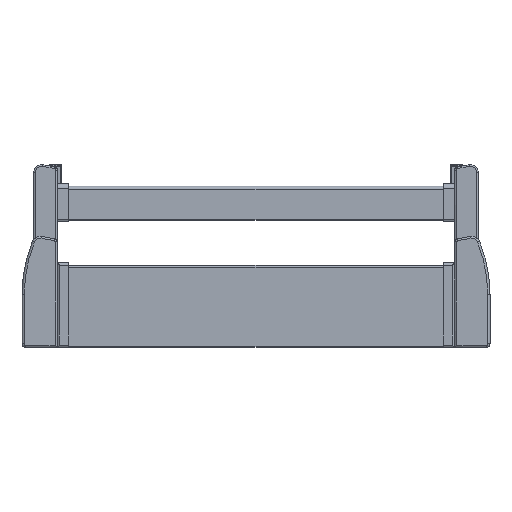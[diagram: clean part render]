
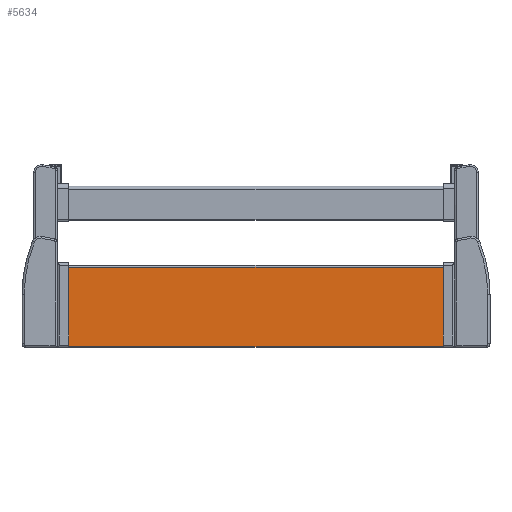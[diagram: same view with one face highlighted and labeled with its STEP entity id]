
A CAD part, top view. The second image highlights one B-rep face of the part: STEP entity #5634.
In plain terms, the highlighted planar face has unit normal (0, 0, 1).
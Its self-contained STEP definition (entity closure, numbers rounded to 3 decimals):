
#597 = VERTEX_POINT ( 'NONE', #2080 ) ;
#600 = EDGE_CURVE ( 'NONE', #602, #597, #2079, .T. ) ;
#602 = VERTEX_POINT ( 'NONE', #2075 ) ;
#2075 = CARTESIAN_POINT ( 'NONE',  ( 163.8, -92.5, 1.4 ) ) ;
#2076 = DIRECTION ( 'NONE',  ( 0., 1., 0. ) ) ;
#2077 = VECTOR ( 'NONE', #2076, 1000. ) ;
#2078 = CARTESIAN_POINT ( 'NONE',  ( 163.8, -92.5, 1.4 ) ) ;
#2079 = LINE ( 'NONE', #2078, #2077 ) ;
#2080 = CARTESIAN_POINT ( 'NONE',  ( 163.8, -23., 1.4 ) ) ;
#4265 = VECTOR ( 'NONE', #4324, 1000. ) ;
#4266 = CARTESIAN_POINT ( 'NONE',  ( -163.8, -92.5, 1.4 ) ) ;
#4267 = LINE ( 'NONE', #4266, #4265 ) ;
#4314 = DIRECTION ( 'NONE',  ( -1., 0., 0. ) ) ;
#4315 = VECTOR ( 'NONE', #4314, 1000. ) ;
#4316 = CARTESIAN_POINT ( 'NONE',  ( 237.556, -23., 1.4 ) ) ;
#4317 = LINE ( 'NONE', #4316, #4315 ) ;
#4324 = DIRECTION ( 'NONE',  ( 0., 1., 0. ) ) ;
#4336 = CARTESIAN_POINT ( 'NONE',  ( -163.8, -23., 1.4 ) ) ;
#5228 = ORIENTED_EDGE ( 'NONE', *, *, #5318, .T. ) ;
#5315 = ORIENTED_EDGE ( 'NONE', *, *, #5316, .F. ) ;
#5316 = EDGE_CURVE ( 'NONE', #5635, #5341, #4267, .T. ) ;
#5318 = EDGE_CURVE ( 'NONE', #597, #5341, #4317, .T. ) ;
#5341 = VERTEX_POINT ( 'NONE', #4336 ) ;
#5560 = EDGE_LOOP ( 'NONE', ( #5647, #5774, #5228, #5315 ) ) ;
#5634 = ADVANCED_FACE ( 'NONE', ( #6208 ), #6207, .F. ) ;
#5635 = VERTEX_POINT ( 'NONE', #6206 ) ;
#5647 = ORIENTED_EDGE ( 'NONE', *, *, #5932, .F. ) ;
#5774 = ORIENTED_EDGE ( 'NONE', *, *, #600, .T. ) ;
#5932 = EDGE_CURVE ( 'NONE', #602, #5635, #6725, .T. ) ;
#6202 = DIRECTION ( 'NONE',  ( 0., 1., 0. ) ) ;
#6203 = DIRECTION ( 'NONE',  ( 0., 0., -1. ) ) ;
#6204 = CARTESIAN_POINT ( 'NONE',  ( 237.556, -92.5, 1.4 ) ) ;
#6205 = AXIS2_PLACEMENT_3D ( 'NONE', #6204, #6203, #6202 ) ;
#6206 = CARTESIAN_POINT ( 'NONE',  ( -163.8, -92.5, 1.4 ) ) ;
#6207 = PLANE ( 'NONE',  #6205 ) ;
#6208 = FACE_OUTER_BOUND ( 'NONE', #5560, .T. ) ;
#6722 = DIRECTION ( 'NONE',  ( -1., 0., 0. ) ) ;
#6723 = VECTOR ( 'NONE', #6722, 1000. ) ;
#6724 = CARTESIAN_POINT ( 'NONE',  ( 237.556, -92.5, 1.4 ) ) ;
#6725 = LINE ( 'NONE', #6724, #6723 ) ;
